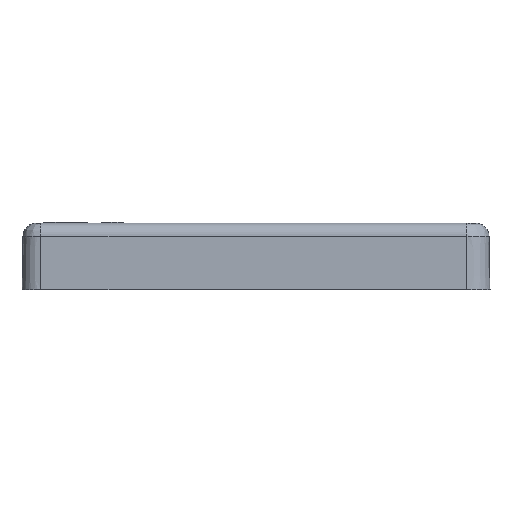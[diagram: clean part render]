
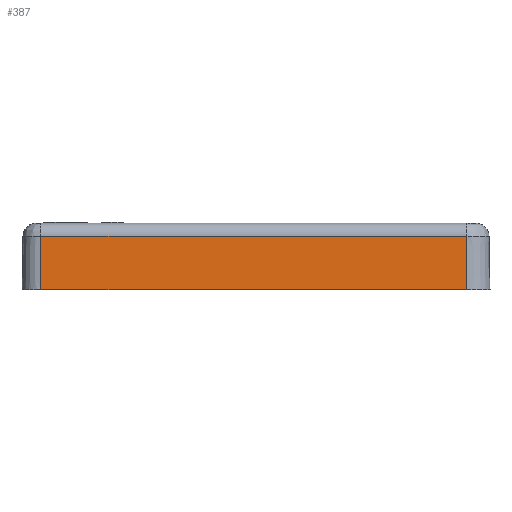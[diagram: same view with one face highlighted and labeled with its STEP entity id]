
A CAD part, left-side view. The second image highlights one B-rep face of the part: STEP entity #387.
In plain terms, the highlighted planar face has unit normal (-1, 0, 0.018).
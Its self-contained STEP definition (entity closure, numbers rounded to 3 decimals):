
#156=FACE_OUTER_BOUND('',#1391,.T.);
#387=ADVANCED_FACE('',(#156),#581,.F.);
#581=PLANE('',#3668);
#722=LINE('',#5262,#1034);
#738=LINE('',#5311,#1050);
#739=LINE('',#5313,#1051);
#740=LINE('',#5315,#1052);
#1034=VECTOR('',#4072,1.);
#1050=VECTOR('',#4116,1.);
#1051=VECTOR('',#4119,1.);
#1052=VECTOR('',#4120,1.);
#1391=EDGE_LOOP('',(#1733,#1734,#1735,#1736));
#1733=ORIENTED_EDGE('',*,*,#3076,.T.);
#1734=ORIENTED_EDGE('',*,*,#3077,.T.);
#1735=ORIENTED_EDGE('',*,*,#3078,.F.);
#1736=ORIENTED_EDGE('',*,*,#3050,.F.);
#2704=VERTEX_POINT('',#5261);
#2705=VERTEX_POINT('',#5263);
#2723=VERTEX_POINT('',#5310);
#2724=VERTEX_POINT('',#5314);
#3050=EDGE_CURVE('',#2704,#2705,#722,.T.);
#3076=EDGE_CURVE('',#2704,#2723,#738,.T.);
#3077=EDGE_CURVE('',#2723,#2724,#739,.T.);
#3078=EDGE_CURVE('',#2705,#2724,#740,.T.);
#3668=AXIS2_PLACEMENT_3D('',#5316,#4121,#4122);
#4072=DIRECTION('',(0.,1.,0.));
#4116=DIRECTION('',(0.017,0.,1.));
#4119=DIRECTION('',(0.,1.,0.));
#4120=DIRECTION('',(0.017,0.,1.));
#4121=DIRECTION('',(1.,0.,-0.017));
#4122=DIRECTION('',(0.017,0.,1.));
#5261=CARTESIAN_POINT('',(-52.862,-47.667,5.));
#5262=CARTESIAN_POINT('',(-52.862,-47.667,5.));
#5263=CARTESIAN_POINT('',(-52.862,48.533,5.));
#5310=CARTESIAN_POINT('',(-52.651,-47.667,17.052));
#5311=CARTESIAN_POINT('',(-52.862,-47.667,5.));
#5313=CARTESIAN_POINT('',(-52.651,-47.667,17.052));
#5314=CARTESIAN_POINT('',(-52.651,48.533,17.052));
#5315=CARTESIAN_POINT('',(-52.862,48.533,5.));
#5316=CARTESIAN_POINT('',(-52.641,-52.477,17.655));
